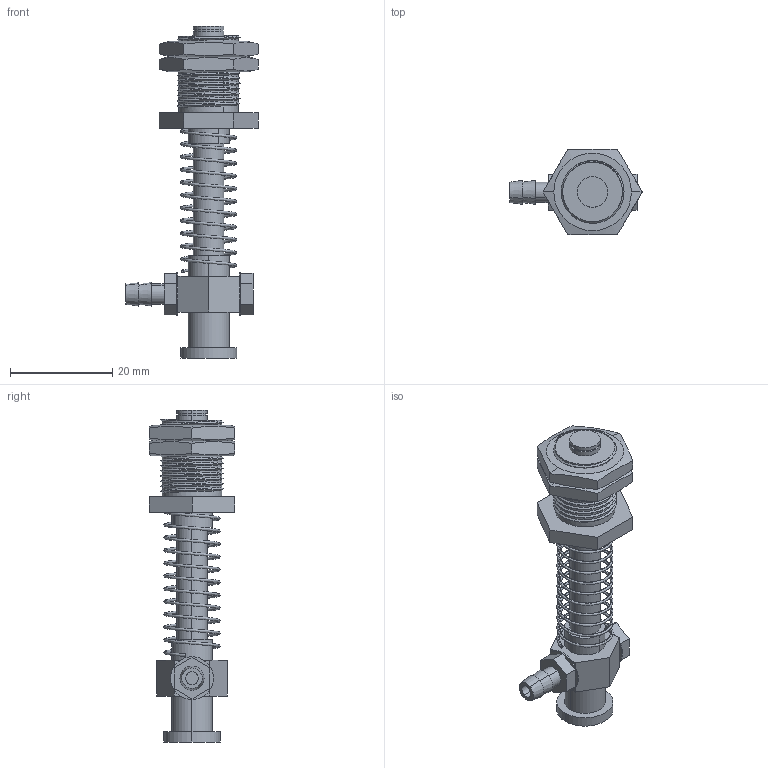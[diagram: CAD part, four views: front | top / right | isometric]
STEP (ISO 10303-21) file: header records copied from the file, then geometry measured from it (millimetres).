
FILE_DESCRIPTION (( 'STEP AP214' ), '1' );
FILE_NAME ('VFMT-20M12.STEP', '2019-11-16T01:44:23', ( '微软用户' ), ( '微软中国' ), 'SwSTEP 2.0', 'SolidWorks 2016', '' );
FILE_SCHEMA (( 'AUTOMOTIVE_DESIGN' ));
Length unit declared in the file: millimetre
Products named in the file (1): VFMT-20M12
Bounding box: 25.9 x 16.8 x 65 mm (x, y, z)
Volume: 5984.5 mm3; surface area: 6397.2 mm2
Topology: 10 solids, 10 shells, 198 faces, 485 edges, 317 vertices
Faces by surface type: cylinder 98, plane 77, cone 14, bspline 9
Entity records: 14996 total; most frequent: CARTESIAN_POINT 8349, ORIENTED_EDGE 966, DIRECTION 808, EDGE_CURVE 483, VERTEX_POINT 317, AXIS2_PLACEMENT_3D 296, EDGE_LOOP 226, LINE 216
